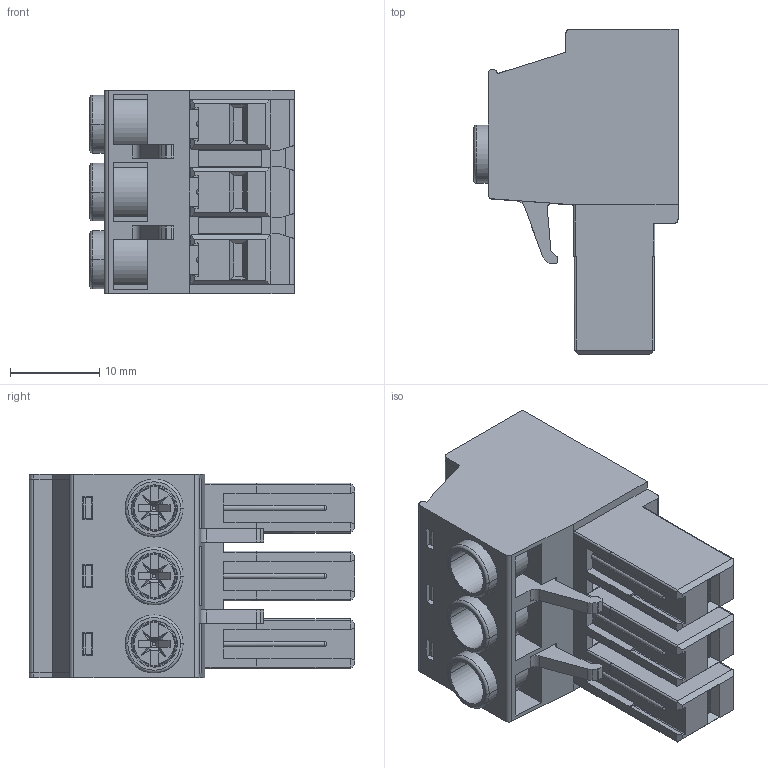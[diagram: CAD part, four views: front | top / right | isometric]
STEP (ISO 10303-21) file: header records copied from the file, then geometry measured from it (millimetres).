
FILE_DESCRIPTION((''),'2;1');
FILE_NAME('3','2019-05-09T',('zhenbing.lai'),(''),'CREO PARAMETRIC BY PTC INC, 2016260','CREO PARAMETRIC BY PTC INC, 2016260','');
FILE_SCHEMA(('CONFIG_CONTROL_DESIGN'));
Length unit declared in the file: millimetre
Products named in the file (1): 3
Bounding box: 22.9 x 36.5 x 22.86 mm (x, y, z)
Volume: 9626.2 mm3; surface area: 6814.9 mm2
Topology: 1 solids, 13 shells, 644 faces, 1733 edges, 1144 vertices
Faces by surface type: plane 488, cylinder 105, torus 18, cone 18, bspline 12, sphere 3
Entity records: 20720 total; most frequent: CARTESIAN_POINT 4809, ORIENTED_EDGE 3466, DIRECTION 2972, EDGE_CURVE 1733, VECTOR 1298, LINE 1298, VERTEX_POINT 1144, AXIS2_PLACEMENT_3D 837
